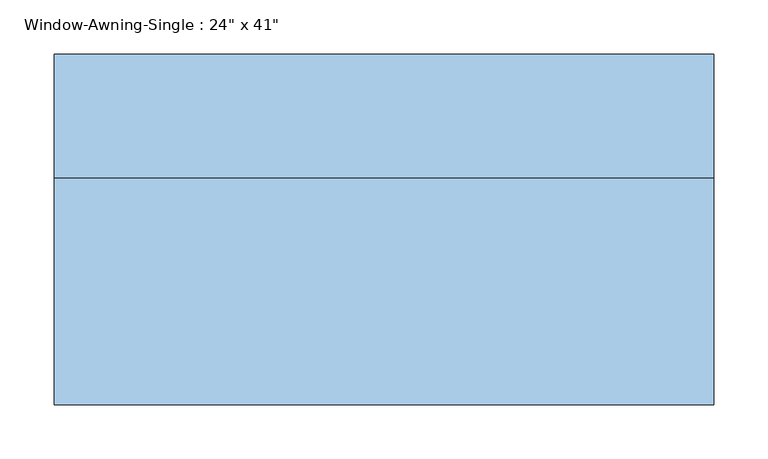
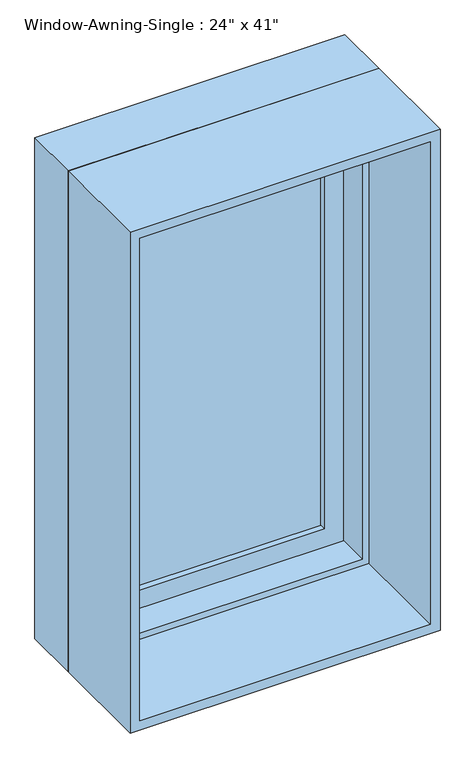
"""IFC4 building model written with IfcOpenShell, lengths in millimetres: window geometry."""

from ifc_helpers import new_model, si_unit, frame, origin, place, context, project, spatial, polyline, outline, extrude, faceted_brep, source, transform, mapped, element, save


def window_3a3a1fc1(model_context):
    return source(origin(), model_context, "Body", "SolidModel", [
        faceted_brep([(292.1, 120.65, 927.1), (292.1, 171.45, 927.1), (-292.1, 171.45, 927.1), (-292.1, 120.65, 927.1), (273.05, 57.15, 946.15), (273.05, 120.65, 946.15), (-273.05, 120.65, 946.15), (-273.05, 57.15, 946.15), (304.8, 171.45, 914.4), (304.8, 57.15, 914.4), (-304.8, 57.15, 914.4), (-304.8, 171.45, 914.4), (-292.1, 171.45, 1943.1), (-292.1, 120.65, 1943.1), (-273.05, 120.65, 1924.05), (-273.05, 57.15, 1924.05), (-304.8, 57.15, 1955.8), (-304.8, 171.45, 1955.8), (292.1, 171.45, 1943.1), (292.1, 120.65, 1943.1), (273.05, 120.65, 1924.05), (273.05, 57.15, 1924.05), (304.8, 57.15, 1955.8), (304.8, 171.45, 1955.8)], [[[0, 1, 2, 3]], [[4, 5, 6, 7]], [[8, 9, 10, 11]], [[3, 2, 12, 13]], [[7, 6, 14, 15]], [[11, 10, 16, 17]], [[13, 12, 18, 19]], [[15, 14, 20, 21]], [[17, 16, 22, 23]], [[11, 17, 23, 8], [1, 18, 12, 2]], [[19, 18, 1, 0]], [[3, 13, 19, 0], [5, 20, 14, 6]], [[21, 20, 5, 4]], [[9, 22, 16, 10], [7, 15, 21, 4]], [[23, 22, 9, 8]]]),
        extrude(outline(polyline([(234.95, 152.4), (234.95, 146.05), (-234.95, 146.05), (-234.95, 152.4), (234.95, 152.4)])), frame((0.0, 0.0, 984.25), z_axis=(0.0, 0.0, 1.0), x_axis=(1.0, 0.0, 0.0)), (0.0, 0.0, 1.0), 901.7),
        extrude(outline(polyline([(234.95, 139.7), (234.95, 133.35), (-234.95, 133.35), (-234.95, 139.7), (234.95, 139.7)])), frame((0.0, 0.0, 984.25), z_axis=(0.0, 0.0, 1.0), x_axis=(1.0, 0.0, 0.0)), (0.0, 0.0, 1.0), 901.7),
        extrude(outline(polyline([(927.1, -292.1), (927.1, 292.1), (1943.1, 292.1), (1943.1, -292.1), (927.1, -292.1)]), holes=[polyline([(1885.95, -234.95), (1885.95, 234.95), (984.25, 234.95), (984.25, -234.95), (1885.95, -234.95)])]), frame((0.0, 120.65, 0.0), z_axis=(0.0, 1.0, 0.0), x_axis=(0.0, 0.0, 1.0)), (0.0, 0.0, 1.0), 44.45),
        extrude(outline(polyline([(1955.8, -304.8), (914.4, -304.8), (914.4, 304.8), (1955.8, 304.8), (1955.8, -304.8)]), holes=[polyline([(1936.75, -285.75), (1936.75, 285.75), (933.45, 285.75), (933.45, -285.75), (1936.75, -285.75)])]), frame((0.0, -152.4, 0.0), z_axis=(0.0, 1.0, 0.0), x_axis=(0.0, 0.0, 1.0)), (0.0, 0.0, 1.0), 209.55),
    ])


if __name__ == "__main__":
    model = new_model("IFC4")
    model_context = context("Model", 3, world=origin())
    ifc_project = project(units=[si_unit("LENGTHUNIT", "METRE", prefix="MILLI")], contexts=[model_context])
    site = spatial("IfcSite", under=ifc_project)
    building = spatial("IfcBuilding", under=site)
    placement = place(None, origin())
    window_shape = window_3a3a1fc1(model_context)
    element("IfcWindow", 1, ObjectType="Window-Awning-Single : 24\" x 41\"", at=placement, inside=building, context=model_context, shape_type="MappedRepresentation", body=[
        mapped(window_shape, transform((0.0, 0.0, 0.0), x_axis=(1.0, 0.0, 0.0), y_axis=(0.0, 1.0, 0.0), z_axis=(0.0, 0.0, 1.0))),
    ])
    save(model, "model.ifc")
